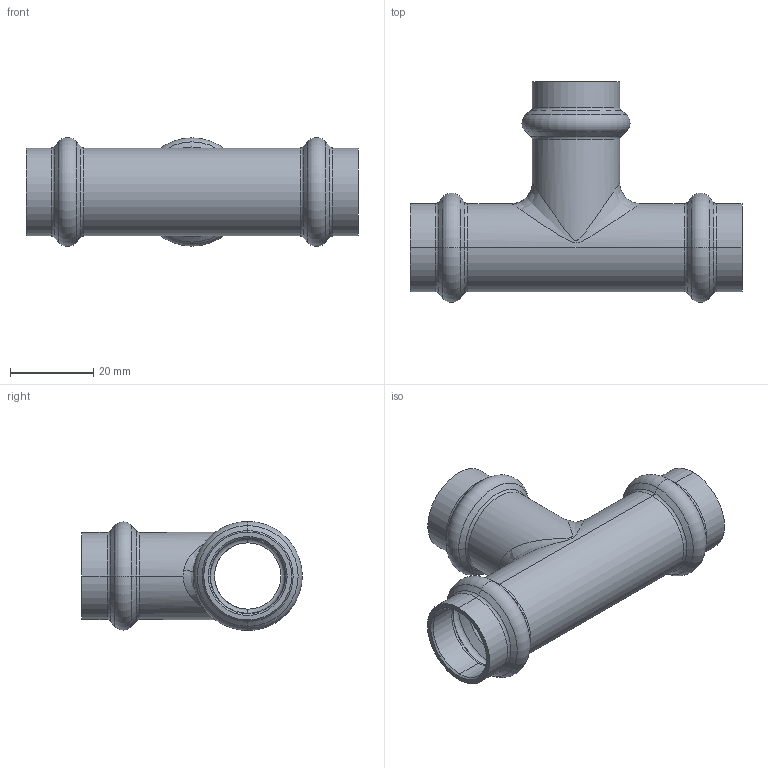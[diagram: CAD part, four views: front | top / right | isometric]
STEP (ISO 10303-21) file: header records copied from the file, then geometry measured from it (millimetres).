
FILE_DESCRIPTION (( 'STEP AP203' ), '1' );
FILE_NAME ('SP5130 Ø18.STEP', '2017-04-24T12:15:46', ( '' ), ( '' ), 'SwSTEP 2.0', 'SolidWorks 2016', '' );
FILE_SCHEMA (( 'CONFIG_CONTROL_DESIGN' ));
Length unit declared in the file: millimetre
Products named in the file (1): SP5130 ﾘ18
Bounding box: 80 x 53.15 x 26.3 mm (x, y, z)
Volume: 13020.4 mm3; surface area: 14582.1 mm2
Topology: 1 solids, 1 shells, 110 faces, 226 edges, 122 vertices
Faces by surface type: torus 40, cone 30, cylinder 30, plane 6, bspline 4
Entity records: 4290 total; most frequent: CARTESIAN_POINT 1828, DIRECTION 582, ORIENTED_EDGE 452, AXIS2_PLACEMENT_3D 261, EDGE_CURVE 226, CIRCLE 154, VERTEX_POINT 122, EDGE_LOOP 118
